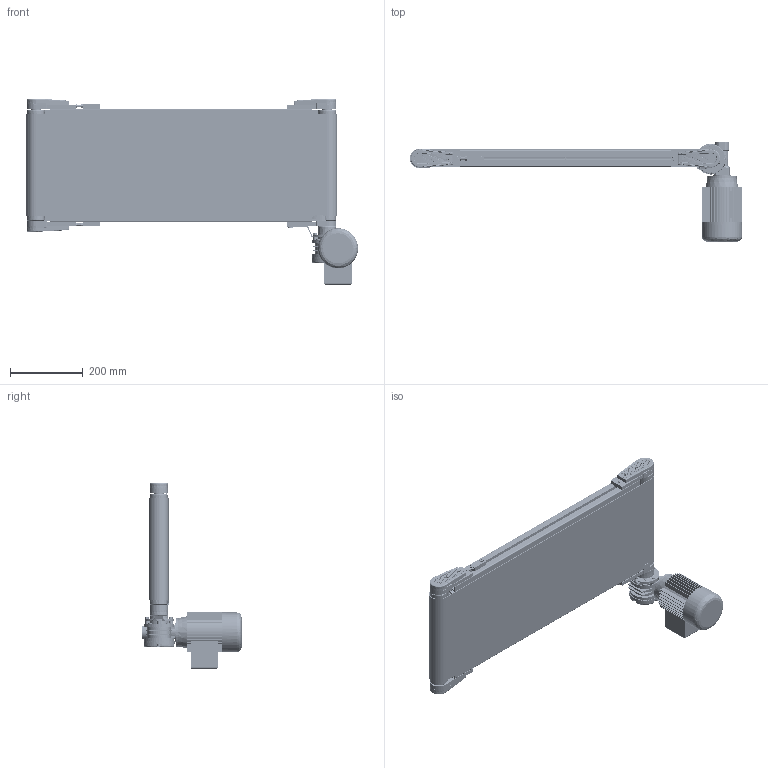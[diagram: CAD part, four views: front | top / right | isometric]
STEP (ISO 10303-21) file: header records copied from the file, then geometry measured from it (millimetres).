
FILE_DESCRIPTION (( 'STEP AP203' ), '1' );
FILE_NAME ('NASTRO_RETTILINEO_TAPPETO.step', '2026-04-29T10:21:57', ( 'Utente Windows' ), ( '' ), 'SwSTEP 2.0', 'SolidWorks 2024', '' );
FILE_SCHEMA (( 'CONFIG_CONTROL_DESIGN' ));
Length unit declared in the file: millimetre
Products named in the file (43): VITI TSEI UNI 5933_M5x12 UNI 5933; 084.302.000 DADI ALUSIC 13x13-1_084.302.004; 084.811.004; 084.810.001; CHIAVETTE_A 5x5x40 UNI 6604-69; 14UNI7435; VITI TCEI UNI 5931_M4x25 UNI 5931; 084.302.000 DADI ALUSIC 13x13-1_084.302.007; 084.807.004_084.807.004; BLOCCO_PERNO_50_30; 084.802.066_Default<A macchina>; TELAIO_50_STANDARD_Default<A macchina>; 084.808.012; 084.302.000 DADI ALUSIC 13x13_084.302.004; TAPPETO_STANDARD; NASTRO_RETTILINEO_TAPPETO; 084.301.000 VITI ALUSIC_084.301.009; 084.802.062; 084.802.071; BLOCCO_RINVIO_50_CORTA; RONDELLE FASCIA LARGA UNI 6593_5.4x20 UNI 6593; VITI TSEI UNI 5933_M4x10 UNI 5933; VITE_RONDELLA_M8X20; RULLO_50_Default<A macchina>; CHIAVETTE_A 5x5x20 UNI 6604-69; VITI TCEI UNI 5931_M4x10 UNI 5931; 084.803.018; BLOCCO_BRACCIO_CH03P_VF30P; BLOCCO_PERNO_50_RINVIO; 084.802.061; VITI TCEI UNI 5931_M6x12 UNI 5931; CH03P_SX; BLOCCO_TRAINO_50_CORTA_30_SX; 084.303.001; LAMIERA_STANDARD; 084.301.000 VITI ALUSIC_084.301.003; 084.807.013_084.807.003; 084.802.008; 084.811.001; VITE_DADO_M5X12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
Assembly tree (79 placements, depth 4):
  NASTRO_RETTILINEO_TAPPETO
    TAPPETO_STANDARD
    TELAIO_50_STANDARD_Default<A macchina>
    LAMIERA_STANDARD
    RULLO_50_Default<A macchina>  x2
    BLOCCO_PERNO_50_RINVIO  x3
      084.811.004
      084.810.001
    BLOCCO_TRAINO_50_CORTA
      084.807.004_084.807.004
      084.802.017_084.802.017
      084.301.000 VITI ALUSIC_084.301.003  x2
      084.302.000 DADI ALUSIC 13x13-1_084.302.004  x2
      VITI TSEI UNI 5933_M4x10 UNI 5933  x2
      084.802.071
    BLOCCO_PERNO_50_30
      084.810.001
      084.811.001
      RONDELLE FASCIA LARGA UNI 6593_5.4x20 UNI 6593
      084.301.000 VITI ALUSIC_084.301.009
      CHIAVETTE_A 5x5x40 UNI 6604-69
      CHIAVETTE_A 5x5x20 UNI 6604-69
      14UNI7435
    BLOCCO_TRAINO_50_CORTA_30_SX
      084.807.013_084.807.003
      084.802.017_084.802.017
      084.301.000 VITI ALUSIC_084.301.003  x2
      084.302.000 DADI ALUSIC 13x13-1_084.302.004  x2
      BLOCCO_BRACCIO_CH03P_VF30P
        084.808.012
        084.802.062
        084.802.061
        VITI TE UNI 5739_M6x16 UNI 5739  x4
        084.803.018
        VITI TCEI UNI 5931_M6x12 UNI 5931  x4
      084.802.066_Default<A macchina>
      VITI TCEI UNI 5931_M4x25 UNI 5931  x2
    BLOCCO_RINVIO_50_CORTA  x2
      084.807.004_084.807.004
      084.802.017_084.802.017
      084.802.008
      084.301.000 VITI ALUSIC_084.301.003
      084.302.000 DADI ALUSIC 13x13_084.302.004
      VITI TCEI UNI 5931_M4x10 UNI 5931
      084.802.071
    VITE_RONDELLA_M8X20  x3
      084.303.001
      084.301.000 VITI ALUSIC_084.301.003
    VITE_DADO_M5X12  x6
      084.302.000 DADI ALUSIC 13x13-1_084.302.007
      VITI TSEI UNI 5933_M5x12 UNI 5933
    CH03P_SX
Bounding box: 912 x 273 x 510.4 mm (x, y, z)
Volume: 5249120.8 mm3; surface area: 3453204.6 mm2
Topology: 109 solids, 115 shells, 6171 faces, 16002 edges, 10244 vertices
Faces by surface type: plane 3041, cylinder 1658, bspline 586, cone 527, torus 325, sphere 34
Entity records: 136696 total; most frequent: CARTESIAN_POINT 40617, ORIENTED_EDGE 19710, DIRECTION 17933, EDGE_CURVE 9855, VERTEX_POINT 6340, AXIS2_PLACEMENT_3D 6140, VECTOR 5653, LINE 5653
